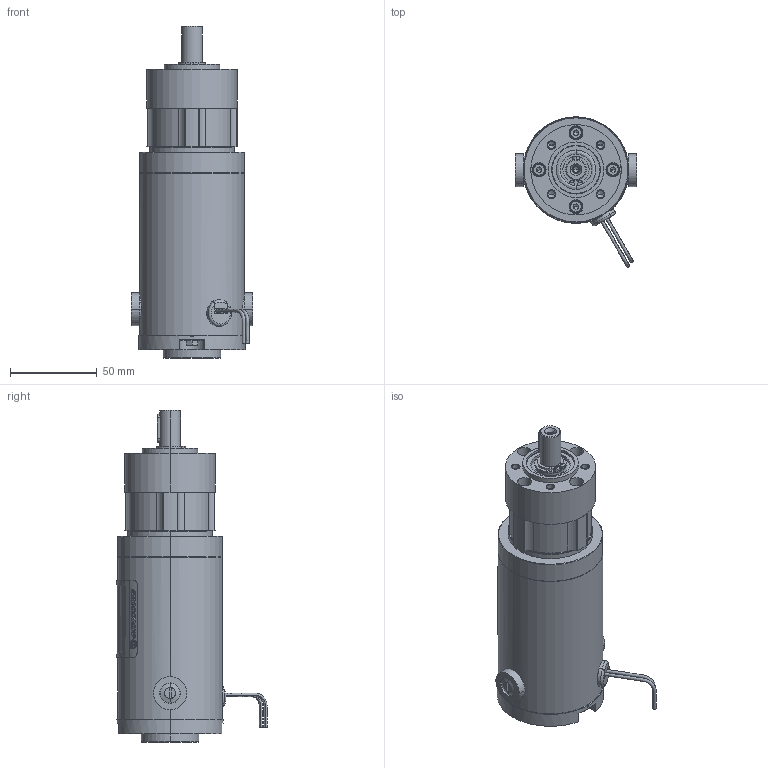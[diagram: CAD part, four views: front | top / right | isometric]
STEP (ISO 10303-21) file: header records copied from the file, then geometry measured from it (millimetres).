
FILE_DESCRIPTION (( 'STEP AP214' ), '1' );
FILE_NAME ('PM6013-PL5200iP_1S.STEP', '2013-05-01T14:45:35', ( '' ), ( '' ), 'SwSTEP 2.0', 'SolidWorks 2013', '' );
FILE_SCHEMA (( 'AUTOMOTIVE_DESIGN' ));
Length unit declared in the file: inch
Products named in the file (1): PM6013-PL5200iP_1S
Bounding box: 69.81 x 86.45 x 191.15 mm (x, y, z)
Surface area: 117284.9 mm2 (no closed solid volume)
Topology: 0 solids, 43 shells, 1719 faces, 4472 edges, 2871 vertices
Faces by surface type: plane 545, cylinder 539, bspline 391, cone 169, torus 61, sphere 14
Entity records: 100540 total; most frequent: CARTESIAN_POINT 38249, ORIENTED_EDGE 8792, DIRECTION 7244, EDGE_CURVE 4406, VERTEX_POINT 2857, AXIS2_PLACEMENT_3D 2723, EDGE_LOOP 1917, LINE 1798
